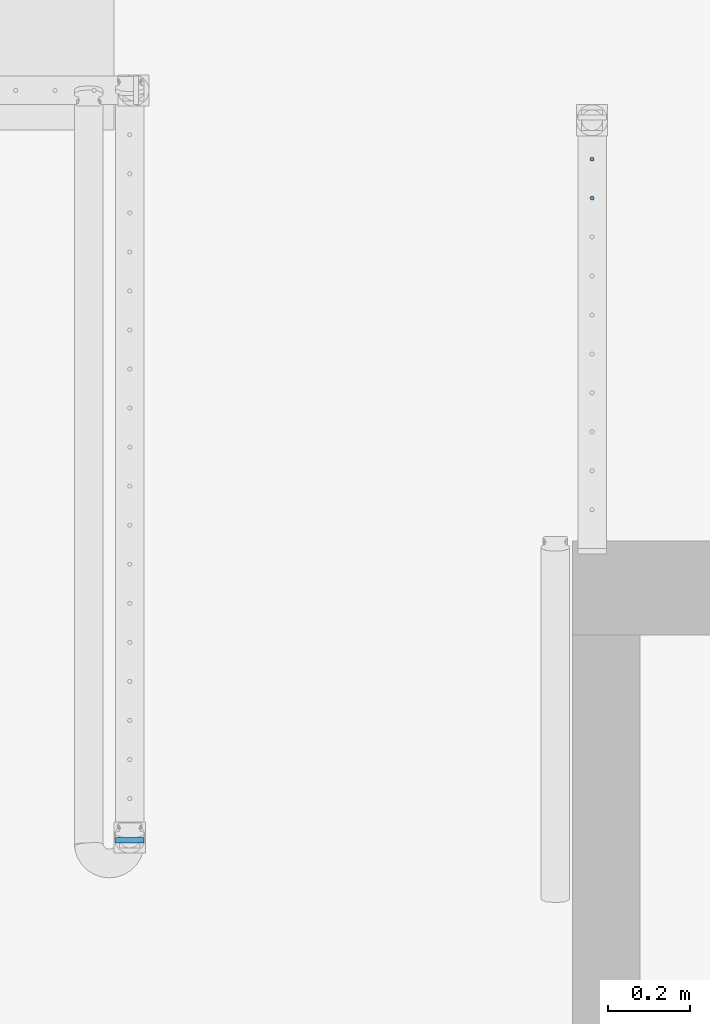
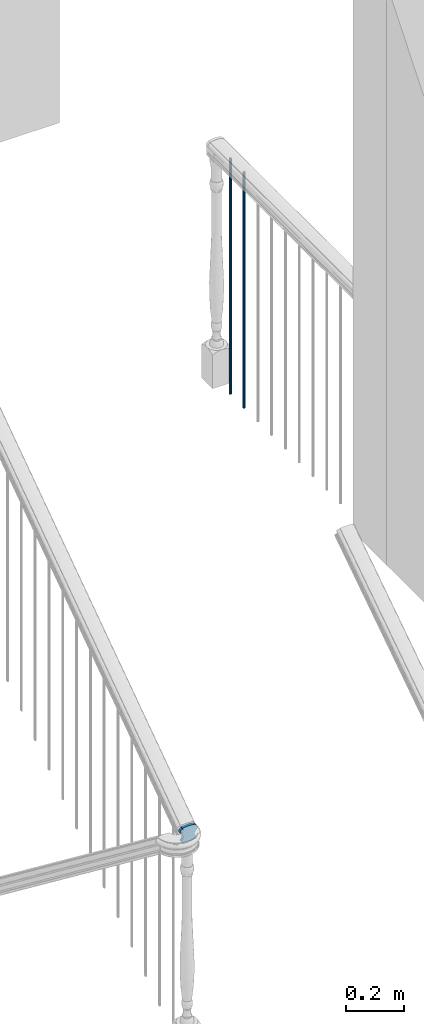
# One storey, part 26 of 77: 3 building element parts, 2 elements without a shape of their own.
"""IFC2X3 building model written with IfcOpenShell, lengths in inches."""

from ifc_helpers import new_model, entity, si_unit, converted_unit, derived_unit, money_unit, direction, frame, origin_with_axes, place, context, subcontext, project, spatial, faceted_brep, material, type_object, element, aggregate, save


model = new_model("IFC2X3")

# Units and contexts
model_context = context("Model", 3, precision=0.000393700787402, world=origin_with_axes(), true_north=direction((0.0, 1.0)))
body_context = subcontext(model_context, "Body", "Model", "MODEL_VIEW")
ifc_project = project(units=[converted_unit("LENGTHUNIT", "INCH", entity("IfcPositiveLengthMeasure", 0.0254), si_unit("LENGTHUNIT", "METRE"), dimensions=[1, 0, 0, 0, 0, 0, 0]), converted_unit("AREAUNIT", "SQUARE_FOOT", entity("IfcPositiveLengthMeasure", 0.09290304), si_unit("AREAUNIT", "SQUARE_METRE"), dimensions=[2, 0, 0, 0, 0, 0, 0]), si_unit("PLANEANGLEUNIT", "RADIAN"), si_unit("SOLIDANGLEUNIT", "STERADIAN"), money_unit("USD"), converted_unit("TIMEUNIT", "Year", entity("IfcTimeMeasure", 31556926.0), si_unit("TIMEUNIT", "SECOND"), dimensions=[0, 0, 1, 0, 0, 0, 0]), si_unit("MASSUNIT", "GRAM", prefix="KILO"), si_unit("THERMODYNAMICTEMPERATUREUNIT", "DEGREE_CELSIUS"), si_unit("LUMINOUSINTENSITYUNIT", "LUMEN"), si_unit("ENERGYUNIT", "JOULE", prefix="MEGA"), derived_unit("THERMALCONDUCTANCEUNIT", [(si_unit("POWERUNIT", "WATT"), 1), (si_unit("LENGTHUNIT", "METRE"), -1), (si_unit("THERMODYNAMICTEMPERATUREUNIT", "KELVIN"), -1)]), derived_unit("SPECIFICHEATCAPACITYUNIT", [(si_unit("ENERGYUNIT", "JOULE"), 1), (si_unit("MASSUNIT", "GRAM", prefix="KILO"), -1), (si_unit("THERMODYNAMICTEMPERATUREUNIT", "KELVIN"), -1)]), derived_unit("MASSDENSITYUNIT", [(si_unit("MASSUNIT", "GRAM", prefix="KILO"), 1), (si_unit("VOLUMEUNIT", "CUBIC_METRE"), -1)])], contexts=[model_context])

# Site, building, storey
site_placement = place(None, origin_with_axes())
site = spatial("IfcSite", under=ifc_project, at=site_placement, Name="Site", CompositionType="ELEMENT")
building_placement = place(site_placement, origin_with_axes())
building = spatial("IfcBuilding", under=site, at=building_placement, Name="Building", CompositionType="ELEMENT")
storey_placement = place(building_placement, frame((0.0, 0.0, 127.952755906), z_axis=(0.0, 0.0, 1.0), x_axis=(1.0, 0.0, 0.0)))
storey = spatial("IfcBuildingStorey", under=building, at=storey_placement, Name="Second Floor", CompositionType="ELEMENT", Elevation=127.953)

# Railing, building element parts
railing_type = type_object("IfcRailingType", Name="Railing Type", PredefinedType="NOTDEFINED")
railing_1_placement = place(storey_placement, frame((726.989643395, 142.006727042, 0.0), z_axis=(0.0, 0.0, 1.0), x_axis=(-1.0, 0.0, 0.0)))
railing_1 = element("IfcRailing", 1, at=railing_1_placement, inside=storey, type_object=railing_type, Name="RAILING - 001", PredefinedType="NOTDEFINED")
ifc_material_1 = material(Name="Steel - Structural")
building_element_part_1_placement = place(railing_1_placement, origin_with_axes())
building_element_part_1 = element("IfcBuildingElementPart", 2, at=building_element_part_1_placement, material=ifc_material_1, Name="Steel - Structural", context=body_context, shape_type="Brep", body=[
    faceted_brep([(-1.96850393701, 3.55450185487, -4.94161422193e-07), (-1.93432122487, 3.55749245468, -4.94161422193e-07), (-1.93432122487, 3.55749245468, 39.2125984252), (-1.96850393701, 3.55450185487, 39.2125984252), (-2.00268664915, 3.55749245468, -4.94161422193e-07), (-2.03583073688, 3.56637338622, -4.94161422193e-07), (-2.06692913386, 3.58087480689, -4.94161422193e-07), (-2.09503693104, 3.60055609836, -4.94161422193e-07), (-2.11930008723, 3.62481925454, -4.94161422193e-07), (-2.1389813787, 3.65292705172, -4.94161422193e-07), (-2.15348279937, 3.68402544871, -4.94161422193e-07), (-2.16236373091, 3.71716953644, -4.94161422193e-07), (-2.16535433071, 3.75135224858, -4.94161422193e-07), (-2.16236373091, 3.78553496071, -4.94161422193e-07), (-2.15348279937, 3.81867904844, -4.94161422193e-07), (-2.1389813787, 3.84977744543, -4.94161422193e-07), (-2.11930008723, 3.87788524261, -4.94161422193e-07), (-2.09503693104, 3.9021483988, -4.94161422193e-07), (-2.06692913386, 3.92182969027, -4.94161422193e-07), (-2.03583073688, 3.93633111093, -4.94161422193e-07), (-2.00268664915, 3.94521204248, -4.94161422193e-07), (-1.96850393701, 3.94820264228, -4.94161422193e-07), (-1.93432122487, 3.94521204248, -4.94161422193e-07), (-1.90117713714, 3.93633111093, -4.94161422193e-07), (-1.87007874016, 3.92182969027, -4.94161422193e-07), (-1.84197094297, 3.9021483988, -4.94161422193e-07), (-1.81770778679, 3.87788524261, -4.94161422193e-07), (-1.79802649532, 3.84977744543, -4.94161422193e-07), (-1.78352507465, 3.81867904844, -4.94161422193e-07), (-1.77464414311, 3.78553496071, -4.94161422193e-07), (-1.77165354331, 3.75135224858, -4.94161422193e-07), (-1.77464414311, 3.71716953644, -4.94161422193e-07), (-1.78352507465, 3.68402544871, -4.94161422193e-07), (-1.79802649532, 3.65292705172, -4.94161422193e-07), (-1.81770778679, 3.62481925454, -4.94161422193e-07), (-1.84197094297, 3.60055609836, -4.94161422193e-07), (-1.87007874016, 3.58087480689, -4.94161422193e-07), (-1.90117713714, 3.56637338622, -4.94161422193e-07), (-1.90117713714, 3.56637338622, 39.2125984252), (-1.87007874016, 3.58087480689, 39.2125984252), (-1.84197094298, 3.60055609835, 39.2125984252), (-1.81770778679, 3.62481925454, 39.2125984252), (-1.79802649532, 3.65292705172, 39.2125984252), (-1.78352507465, 3.68402544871, 39.2125984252), (-1.77464414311, 3.71716953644, 39.2125984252), (-1.77165354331, 3.75135224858, 39.2125984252), (-1.77464414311, 3.78553496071, 39.2125984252), (-1.78352507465, 3.81867904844, 39.2125984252), (-1.79802649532, 3.84977744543, 39.2125984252), (-1.81770778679, 3.87788524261, 39.2125984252), (-1.84197094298, 3.9021483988, 39.2125984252), (-1.87007874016, 3.92182969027, 39.2125984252), (-1.90117713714, 3.93633111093, 39.2125984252), (-1.93432122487, 3.94521204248, 39.2125984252), (-1.96850393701, 3.94820264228, 39.2125984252), (-2.00268664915, 3.94521204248, 39.2125984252), (-2.03583073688, 3.93633111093, 39.2125984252), (-2.06692913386, 3.92182969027, 39.2125984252), (-2.09503693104, 3.9021483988, 39.2125984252), (-2.11930008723, 3.87788524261, 39.2125984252), (-2.1389813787, 3.84977744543, 39.2125984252), (-2.15348279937, 3.81867904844, 39.2125984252), (-2.16236373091, 3.78553496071, 39.2125984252), (-2.16535433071, 3.75135224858, 39.2125984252), (-2.16236373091, 3.71716953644, 39.2125984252), (-2.15348279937, 3.68402544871, 39.2125984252), (-2.1389813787, 3.65292705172, 39.2125984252), (-2.11930008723, 3.62481925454, 39.2125984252), (-2.09503693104, 3.60055609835, 39.2125984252), (-2.06692913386, 3.58087480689, 39.2125984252), (-2.03583073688, 3.56637338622, 39.2125984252), (-2.00268664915, 3.55749245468, 39.2125984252)], [[[0, 1, 2, 3]], [[0, 4, 5, 6, 7, 8, 9, 10, 11, 12, 13, 14, 15, 16, 17, 18, 19, 20, 21, 22, 23, 24, 25, 26, 27, 28, 29, 30, 31, 32, 33, 34, 35, 36, 37, 1]], [[1, 37, 38, 2]], [[3, 2, 38, 39, 40, 41, 42, 43, 44, 45, 46, 47, 48, 49, 50, 51, 52, 53, 54, 55, 56, 57, 58, 59, 60, 61, 62, 63, 64, 65, 66, 67, 68, 69, 70, 71]], [[4, 0, 3, 71]], [[5, 4, 71, 70]], [[6, 5, 70, 69]], [[7, 6, 69, 68]], [[8, 7, 68, 67]], [[9, 8, 67, 66]], [[10, 9, 66, 65]], [[11, 10, 65, 64]], [[12, 11, 64, 63]], [[13, 12, 63, 62]], [[14, 13, 62, 61]], [[15, 14, 61, 60]], [[16, 15, 60, 59]], [[17, 16, 59, 58]], [[18, 17, 58, 57]], [[19, 18, 57, 56]], [[20, 19, 56, 55]], [[21, 20, 55, 54]], [[22, 21, 54, 53]], [[23, 22, 53, 52]], [[24, 23, 52, 51]], [[25, 24, 51, 50]], [[26, 25, 50, 49]], [[27, 26, 49, 48]], [[28, 27, 48, 47]], [[29, 28, 47, 46]], [[30, 29, 46, 45]], [[31, 30, 45, 44]], [[32, 31, 44, 43]], [[33, 32, 43, 42]], [[34, 33, 42, 41]], [[35, 34, 41, 40]], [[36, 35, 40, 39]], [[37, 36, 39, 38]]]),
])
building_element_part_2_placement = place(railing_1_placement, origin_with_axes())
building_element_part_2 = element("IfcBuildingElementPart", 3, at=building_element_part_2_placement, material=ifc_material_1, Name="Steel - Structural", context=body_context, shape_type="Brep", body=[
    faceted_brep([(-1.96850393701, 7.30585410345, -4.94161422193e-07), (-1.93432122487, 7.30884470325, -4.94161422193e-07), (-1.93432122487, 7.30884470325, 39.2125984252), (-1.96850393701, 7.30585410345, 39.2125984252), (-2.00268664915, 7.30884470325, -4.94161422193e-07), (-2.03583073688, 7.31772563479, -4.94161422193e-07), (-2.06692913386, 7.33222705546, -4.94161422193e-07), (-2.09503693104, 7.35190834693, -4.94161422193e-07), (-2.11930008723, 7.37617150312, -4.94161422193e-07), (-2.1389813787, 7.4042793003, -4.94161422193e-07), (-2.15348279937, 7.43537769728, -4.94161422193e-07), (-2.16236373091, 7.46852178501, -4.94161422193e-07), (-2.16535433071, 7.50270449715, -4.94161422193e-07), (-2.16236373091, 7.53688720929, -4.94161422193e-07), (-2.15348279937, 7.57003129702, -4.94161422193e-07), (-2.1389813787, 7.601129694, -4.94161422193e-07), (-2.11930008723, 7.62923749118, -4.94161422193e-07), (-2.09503693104, 7.65350064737, -4.94161422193e-07), (-2.06692913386, 7.67318193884, -4.94161422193e-07), (-2.03583073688, 7.68768335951, -4.94161422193e-07), (-2.00268664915, 7.69656429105, -4.94161422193e-07), (-1.96850393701, 7.69955489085, -4.94161422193e-07), (-1.93432122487, 7.69656429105, -4.94161422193e-07), (-1.90117713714, 7.68768335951, -4.94161422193e-07), (-1.87007874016, 7.67318193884, -4.94161422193e-07), (-1.84197094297, 7.65350064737, -4.94161422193e-07), (-1.81770778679, 7.62923749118, -4.94161422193e-07), (-1.79802649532, 7.601129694, -4.94161422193e-07), (-1.78352507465, 7.57003129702, -4.94161422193e-07), (-1.77464414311, 7.53688720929, -4.94161422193e-07), (-1.77165354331, 7.50270449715, -4.94161422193e-07), (-1.77464414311, 7.46852178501, -4.94161422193e-07), (-1.78352507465, 7.43537769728, -4.94161422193e-07), (-1.79802649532, 7.4042793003, -4.94161422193e-07), (-1.81770778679, 7.37617150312, -4.94161422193e-07), (-1.84197094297, 7.35190834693, -4.94161422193e-07), (-1.87007874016, 7.33222705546, -4.94161422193e-07), (-1.90117713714, 7.31772563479, -4.94161422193e-07), (-1.90117713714, 7.31772563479, 39.2125984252), (-1.87007874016, 7.33222705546, 39.2125984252), (-1.84197094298, 7.35190834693, 39.2125984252), (-1.81770778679, 7.37617150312, 39.2125984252), (-1.79802649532, 7.4042793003, 39.2125984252), (-1.78352507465, 7.43537769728, 39.2125984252), (-1.77464414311, 7.46852178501, 39.2125984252), (-1.77165354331, 7.50270449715, 39.2125984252), (-1.77464414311, 7.53688720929, 39.2125984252), (-1.78352507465, 7.57003129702, 39.2125984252), (-1.79802649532, 7.601129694, 39.2125984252), (-1.81770778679, 7.62923749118, 39.2125984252), (-1.84197094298, 7.65350064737, 39.2125984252), (-1.87007874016, 7.67318193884, 39.2125984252), (-1.90117713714, 7.68768335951, 39.2125984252), (-1.93432122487, 7.69656429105, 39.2125984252), (-1.96850393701, 7.69955489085, 39.2125984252), (-2.00268664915, 7.69656429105, 39.2125984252), (-2.03583073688, 7.68768335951, 39.2125984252), (-2.06692913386, 7.67318193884, 39.2125984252), (-2.09503693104, 7.65350064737, 39.2125984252), (-2.11930008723, 7.62923749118, 39.2125984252), (-2.1389813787, 7.601129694, 39.2125984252), (-2.15348279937, 7.57003129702, 39.2125984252), (-2.16236373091, 7.53688720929, 39.2125984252), (-2.16535433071, 7.50270449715, 39.2125984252), (-2.16236373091, 7.46852178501, 39.2125984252), (-2.15348279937, 7.43537769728, 39.2125984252), (-2.1389813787, 7.4042793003, 39.2125984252), (-2.11930008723, 7.37617150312, 39.2125984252), (-2.09503693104, 7.35190834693, 39.2125984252), (-2.06692913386, 7.33222705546, 39.2125984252), (-2.03583073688, 7.31772563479, 39.2125984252), (-2.00268664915, 7.30884470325, 39.2125984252)], [[[0, 1, 2, 3]], [[0, 4, 5, 6, 7, 8, 9, 10, 11, 12, 13, 14, 15, 16, 17, 18, 19, 20, 21, 22, 23, 24, 25, 26, 27, 28, 29, 30, 31, 32, 33, 34, 35, 36, 37, 1]], [[1, 37, 38, 2]], [[3, 2, 38, 39, 40, 41, 42, 43, 44, 45, 46, 47, 48, 49, 50, 51, 52, 53, 54, 55, 56, 57, 58, 59, 60, 61, 62, 63, 64, 65, 66, 67, 68, 69, 70, 71]], [[4, 0, 3, 71]], [[5, 4, 71, 70]], [[6, 5, 70, 69]], [[7, 6, 69, 68]], [[8, 7, 68, 67]], [[9, 8, 67, 66]], [[10, 9, 66, 65]], [[11, 10, 65, 64]], [[12, 11, 64, 63]], [[13, 12, 63, 62]], [[14, 13, 62, 61]], [[15, 14, 61, 60]], [[16, 15, 60, 59]], [[17, 16, 59, 58]], [[18, 17, 58, 57]], [[19, 18, 57, 56]], [[20, 19, 56, 55]], [[21, 20, 55, 54]], [[22, 21, 54, 53]], [[23, 22, 53, 52]], [[24, 23, 52, 51]], [[25, 24, 51, 50]], [[26, 25, 50, 49]], [[27, 26, 49, 48]], [[28, 27, 48, 47]], [[29, 28, 47, 46]], [[30, 29, 46, 45]], [[31, 30, 45, 44]], [[32, 31, 44, 43]], [[33, 32, 43, 42]], [[34, 33, 42, 41]], [[35, 34, 41, 40]], [[36, 35, 40, 39]], [[37, 36, 39, 38]]]),
])
aggregate(railing_1, [building_element_part_1, building_element_part_2])

# Railing, building element part
railing_2_placement = place(storey_placement, frame((680.741415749, 72.1889513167, -111.626157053), z_axis=(0.0, 0.0, 1.0), x_axis=(1.0, 0.0, 0.0)))
railing_2 = element("IfcRailing", 4, at=railing_2_placement, inside=storey, type_object=railing_type, Name="RAILING - 001", PredefinedType="NOTDEFINED")
ifc_material_2 = material(Name="Wood - Structural")
building_element_part_3_placement = place(railing_2_placement, origin_with_axes())
building_element_part_3 = element("IfcBuildingElementPart", 5, at=building_element_part_3_placement, material=ifc_material_2, Name="Wood - Structural", context=body_context, shape_type="Brep", body=[
    faceted_brep([(4.69466494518, 0.212598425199, 95.2682124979), (4.69466494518, 0.212598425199, 95.1455621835), (4.69466494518, 0.712598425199, 95.1455621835), (4.69466494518, 0.712598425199, 95.2682124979), (4.63611672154, 0.212598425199, 95.2824589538), (4.26630886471, 0.212598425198, 95.3517381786), (3.89222506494, 0.212598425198, 95.3865101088), (3.51671232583, 0.212598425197, 95.3865101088), (3.14262852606, 0.212598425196, 95.3517381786), (2.77282066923, 0.212598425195, 95.2824589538), (2.71427244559, 0.212598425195, 95.2682124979), (2.71427244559, 0.212598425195, 95.1455621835), (2.68073458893, 0.212598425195, 95.1440064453), (2.61467790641, 0.212598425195, 95.1316314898), (2.55164735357, 0.212598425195, 95.1072575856), (2.49355808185, 0.212598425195, 95.0716253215), (2.4421751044, 0.212598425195, 95.0258173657), (2.39905966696, 0.212598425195, 94.9712255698), (2.3655218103, 0.212598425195, 94.9095086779), (2.34258056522, 0.212598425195, 94.8425419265), (2.33093298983, 0.212598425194, 94.7723600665), (2.33093298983, 0.212598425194, 94.7010955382), (2.34258056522, 0.212598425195, 94.6309136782), (2.3655218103, 0.212598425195, 94.5639469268), (2.39905966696, 0.212598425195, 94.5022300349), (2.4421751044, 0.212598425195, 94.447638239), (2.49355808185, 0.212598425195, 94.4018302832), (2.55164735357, 0.212598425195, 94.366198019), (2.61467790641, 0.212598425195, 94.3418241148), (2.68073458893, 0.212598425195, 94.3294491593), (2.71427244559, 0.212598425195, 94.3278934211), (2.71427244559, 0.212598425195, 94.1234762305), (2.73684931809, 0.212598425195, 94.0920304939), (2.77664249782, 0.212598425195, 94.018802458), (2.80386263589, 0.212598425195, 93.9393453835), (2.81768266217, 0.212598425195, 93.8560735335), (2.81768266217, 0.212598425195, 93.7715170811), (2.80386263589, 0.212598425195, 93.6882452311), (2.77664249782, 0.212598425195, 93.6087881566), (2.73684931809, 0.212598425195, 93.5355601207), (2.71427244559, 0.212598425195, 93.5041143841), (2.71427244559, 0.212598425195, 93.2996971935), (2.69750351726, 0.212598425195, 93.2989193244), (2.664475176, 0.212598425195, 93.2927318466), (2.63295989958, 0.212598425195, 93.2805448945), (2.60391526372, 0.212598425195, 93.2627287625), (2.57822377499, 0.212598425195, 93.2398247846), (2.55666605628, 0.212598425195, 93.2125288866), (2.53989712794, 0.212598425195, 93.1816704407), (2.5284265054, 0.212598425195, 93.148187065), (2.52260271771, 0.212598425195, 93.113096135), (2.52260271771, 0.212598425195, 93.0774638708), (2.5284265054, 0.212598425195, 93.0423729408), (2.53989712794, 0.212598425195, 93.0088895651), (2.55666605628, 0.212598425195, 92.9780311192), (2.57822377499, 0.212598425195, 92.9507352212), (2.60391526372, 0.212598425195, 92.9278312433), (2.63295989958, 0.212598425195, 92.9100151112), (2.664475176, 0.212598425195, 92.8978281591), (2.69750351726, 0.212598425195, 92.8916406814), (2.71427244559, 0.212598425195, 92.8908628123), (4.69466494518, 0.212598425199, 92.8908628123), (4.71143387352, 0.212598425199, 92.8916406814), (4.74446221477, 0.212598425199, 92.8978281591), (4.7759774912, 0.2125984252, 92.9100151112), (4.80502212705, 0.2125984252, 92.9278312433), (4.83071361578, 0.2125984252, 92.9507352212), (4.8522713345, 0.2125984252, 92.9780311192), (4.86904026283, 0.2125984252, 93.0088895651), (4.88051088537, 0.2125984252, 93.0423729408), (4.88633467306, 0.2125984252, 93.0774638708), (4.88633467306, 0.2125984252, 93.113096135), (4.88051088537, 0.2125984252, 93.148187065), (4.86904026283, 0.2125984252, 93.1816704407), (4.8522713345, 0.2125984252, 93.2125288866), (4.83071361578, 0.2125984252, 93.2398247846), (4.80502212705, 0.2125984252, 93.2627287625), (4.7759774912, 0.2125984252, 93.2805448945), (4.74446221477, 0.212598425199, 93.2927318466), (4.71143387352, 0.212598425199, 93.2989193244), (4.69466494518, 0.212598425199, 93.2996971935), (4.69466494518, 0.212598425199, 93.5041143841), (4.67208807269, 0.212598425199, 93.5355601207), (4.63229489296, 0.212598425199, 93.6087881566), (4.60507475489, 0.212598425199, 93.6882452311), (4.5912547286, 0.212598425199, 93.7715170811), (4.5912547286, 0.212598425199, 93.8560735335), (4.60507475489, 0.212598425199, 93.9393453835), (4.63229489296, 0.212598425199, 94.018802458), (4.67208807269, 0.212598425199, 94.0920304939), (4.69466494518, 0.212598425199, 94.1234762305), (4.69466494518, 0.212598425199, 94.3278934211), (4.72820280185, 0.212598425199, 94.3294491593), (4.79425948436, 0.2125984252, 94.3418241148), (4.85729003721, 0.2125984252, 94.366198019), (4.91537930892, 0.2125984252, 94.4018302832), (4.96676228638, 0.2125984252, 94.447638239), (5.00987772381, 0.2125984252, 94.5022300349), (5.04341558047, 0.2125984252, 94.5639469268), (5.06635682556, 0.2125984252, 94.6309136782), (5.07800440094, 0.2125984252, 94.7010955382), (5.07800440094, 0.2125984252, 94.7723600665), (5.06635682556, 0.2125984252, 94.8425419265), (5.04341558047, 0.2125984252, 94.9095086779), (5.00987772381, 0.2125984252, 94.9712255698), (4.96676228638, 0.2125984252, 95.0258173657), (4.91537930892, 0.2125984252, 95.0716253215), (4.85729003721, 0.2125984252, 95.1072575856), (4.79425948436, 0.2125984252, 95.1316314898), (4.72820280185, 0.212598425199, 95.1440064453), (4.72820280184, 0.712598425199, 95.1440064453), (4.79425948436, 0.7125984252, 95.1316314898), (4.85729003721, 0.7125984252, 95.1072575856), (4.91537930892, 0.7125984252, 95.0716253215), (4.96676228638, 0.7125984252, 95.0258173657), (5.00987772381, 0.7125984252, 94.9712255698), (5.04341558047, 0.7125984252, 94.9095086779), (5.06635682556, 0.7125984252, 94.8425419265), (5.07800440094, 0.7125984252, 94.7723600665), (5.07800440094, 0.7125984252, 94.7010955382), (5.06635682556, 0.7125984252, 94.6309136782), (5.04341558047, 0.7125984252, 94.5639469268), (5.00987772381, 0.7125984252, 94.5022300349), (4.96676228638, 0.7125984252, 94.447638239), (4.91537930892, 0.7125984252, 94.4018302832), (4.85729003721, 0.7125984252, 94.366198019), (4.79425948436, 0.7125984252, 94.3418241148), (4.72820280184, 0.712598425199, 94.3294491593), (4.69466494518, 0.712598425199, 94.3278934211), (4.69466494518, 0.712598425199, 94.1234762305), (4.67208807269, 0.712598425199, 94.0920304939), (4.63229489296, 0.712598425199, 94.018802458), (4.60507475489, 0.712598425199, 93.9393453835), (4.5912547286, 0.712598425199, 93.8560735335), (4.5912547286, 0.712598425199, 93.7715170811), (4.60507475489, 0.712598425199, 93.6882452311), (4.63229489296, 0.712598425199, 93.6087881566), (4.67208807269, 0.712598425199, 93.5355601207), (4.69466494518, 0.712598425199, 93.5041143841), (4.69466494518, 0.712598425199, 93.2996971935), (4.71143387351, 0.712598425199, 93.2989193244), (4.74446221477, 0.712598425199, 93.2927318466), (4.77597749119, 0.7125984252, 93.2805448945), (4.80502212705, 0.7125984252, 93.2627287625), (4.83071361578, 0.7125984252, 93.2398247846), (4.8522713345, 0.7125984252, 93.2125288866), (4.86904026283, 0.7125984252, 93.1816704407), (4.88051088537, 0.7125984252, 93.148187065), (4.88633467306, 0.7125984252, 93.113096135), (4.88633467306, 0.7125984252, 93.0774638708), (4.88051088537, 0.7125984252, 93.0423729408), (4.86904026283, 0.7125984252, 93.0088895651), (4.8522713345, 0.7125984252, 92.9780311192), (4.83071361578, 0.7125984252, 92.9507352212), (4.80502212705, 0.7125984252, 92.9278312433), (4.77597749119, 0.7125984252, 92.9100151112), (4.74446221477, 0.712598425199, 92.8978281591), (4.71143387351, 0.712598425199, 92.8916406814), (4.69466494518, 0.712598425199, 92.8908628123), (2.71427244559, 0.712598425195, 92.8908628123), (2.69750351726, 0.712598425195, 92.8916406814), (2.664475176, 0.712598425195, 92.8978281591), (2.63295989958, 0.712598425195, 92.9100151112), (2.60391526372, 0.712598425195, 92.9278312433), (2.57822377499, 0.712598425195, 92.9507352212), (2.55666605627, 0.712598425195, 92.9780311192), (2.53989712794, 0.712598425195, 93.0088895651), (2.5284265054, 0.712598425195, 93.0423729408), (2.52260271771, 0.712598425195, 93.0774638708), (2.52260271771, 0.712598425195, 93.113096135), (2.5284265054, 0.712598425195, 93.148187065), (2.53989712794, 0.712598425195, 93.1816704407), (2.55666605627, 0.712598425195, 93.2125288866), (2.57822377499, 0.712598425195, 93.2398247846), (2.60391526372, 0.712598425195, 93.2627287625), (2.63295989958, 0.712598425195, 93.2805448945), (2.664475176, 0.712598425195, 93.2927318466), (2.69750351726, 0.712598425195, 93.2989193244), (2.71427244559, 0.712598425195, 93.2996971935), (2.71427244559, 0.712598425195, 93.5041143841), (2.73684931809, 0.712598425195, 93.5355601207), (2.77664249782, 0.712598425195, 93.6087881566), (2.80386263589, 0.712598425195, 93.6882452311), (2.81768266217, 0.712598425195, 93.7715170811), (2.81768266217, 0.712598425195, 93.8560735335), (2.80386263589, 0.712598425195, 93.9393453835), (2.77664249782, 0.712598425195, 94.018802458), (2.73684931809, 0.712598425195, 94.0920304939), (2.71427244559, 0.712598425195, 94.1234762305), (2.71427244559, 0.712598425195, 94.3278934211), (2.68073458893, 0.712598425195, 94.3294491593), (2.61467790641, 0.712598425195, 94.3418241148), (2.55164735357, 0.712598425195, 94.366198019), (2.49355808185, 0.712598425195, 94.4018302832), (2.44217510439, 0.712598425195, 94.447638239), (2.39905966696, 0.712598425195, 94.5022300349), (2.3655218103, 0.712598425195, 94.5639469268), (2.34258056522, 0.712598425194, 94.6309136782), (2.33093298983, 0.712598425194, 94.7010955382), (2.33093298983, 0.712598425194, 94.7723600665), (2.34258056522, 0.712598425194, 94.8425419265), (2.3655218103, 0.712598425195, 94.9095086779), (2.39905966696, 0.712598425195, 94.9712255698), (2.44217510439, 0.712598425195, 95.0258173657), (2.49355808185, 0.712598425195, 95.0716253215), (2.55164735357, 0.712598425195, 95.1072575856), (2.61467790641, 0.712598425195, 95.1316314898), (2.68073458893, 0.712598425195, 95.1440064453), (2.71427244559, 0.712598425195, 95.1455621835), (2.71427244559, 0.712598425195, 95.2682124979), (2.77282066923, 0.712598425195, 95.2824589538), (3.14262852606, 0.712598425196, 95.3517381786), (3.51671232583, 0.712598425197, 95.3865101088), (3.89222506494, 0.712598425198, 95.3865101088), (4.26630886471, 0.712598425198, 95.3517381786), (4.63611672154, 0.712598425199, 95.2824589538)], [[[0, 1, 2, 3]], [[0, 4, 5, 6, 7, 8, 9, 10, 11, 12, 13, 14, 15, 16, 17, 18, 19, 20, 21, 22, 23, 24, 25, 26, 27, 28, 29, 30, 31, 32, 33, 34, 35, 36, 37, 38, 39, 40, 41, 42, 43, 44, 45, 46, 47, 48, 49, 50, 51, 52, 53, 54, 55, 56, 57, 58, 59, 60, 61, 62, 63, 64, 65, 66, 67, 68, 69, 70, 71, 72, 73, 74, 75, 76, 77, 78, 79, 80, 81, 82, 83, 84, 85, 86, 87, 88, 89, 90, 91, 92, 93, 94, 95, 96, 97, 98, 99, 100, 101, 102, 103, 104, 105, 106, 107, 108, 109, 1]], [[1, 109, 110, 2]], [[3, 2, 110, 111, 112, 113, 114, 115, 116, 117, 118, 119, 120, 121, 122, 123, 124, 125, 126, 127, 128, 129, 130, 131, 132, 133, 134, 135, 136, 137, 138, 139, 140, 141, 142, 143, 144, 145, 146, 147, 148, 149, 150, 151, 152, 153, 154, 155, 156, 157, 158, 159, 160, 161, 162, 163, 164, 165, 166, 167, 168, 169, 170, 171, 172, 173, 174, 175, 176, 177, 178, 179, 180, 181, 182, 183, 184, 185, 186, 187, 188, 189, 190, 191, 192, 193, 194, 195, 196, 197, 198, 199, 200, 201, 202, 203, 204, 205, 206, 207, 208, 209, 210, 211, 212, 213, 214, 215]], [[4, 0, 3, 215]], [[5, 4, 215, 214]], [[6, 5, 214, 213]], [[7, 6, 213, 212]], [[8, 7, 212, 211]], [[9, 8, 211, 210]], [[10, 9, 210, 209]], [[11, 10, 209, 208]], [[12, 11, 208, 207]], [[13, 12, 207, 206]], [[14, 13, 206, 205]], [[15, 14, 205, 204]], [[16, 15, 204, 203]], [[17, 16, 203, 202]], [[18, 17, 202, 201]], [[19, 18, 201, 200]], [[20, 19, 200, 199]], [[21, 20, 199, 198]], [[22, 21, 198, 197]], [[23, 22, 197, 196]], [[24, 23, 196, 195]], [[25, 24, 195, 194]], [[26, 25, 194, 193]], [[27, 26, 193, 192]], [[28, 27, 192, 191]], [[29, 28, 191, 190]], [[30, 29, 190, 189]], [[31, 30, 189, 188]], [[32, 31, 188, 187]], [[33, 32, 187, 186]], [[34, 33, 186, 185]], [[35, 34, 185, 184]], [[36, 35, 184, 183]], [[37, 36, 183, 182]], [[38, 37, 182, 181]], [[39, 38, 181, 180]], [[40, 39, 180, 179]], [[41, 40, 179, 178]], [[42, 41, 178, 177]], [[43, 42, 177, 176]], [[44, 43, 176, 175]], [[45, 44, 175, 174]], [[46, 45, 174, 173]], [[47, 46, 173, 172]], [[48, 47, 172, 171]], [[49, 48, 171, 170]], [[50, 49, 170, 169]], [[51, 50, 169, 168]], [[52, 51, 168, 167]], [[53, 52, 167, 166]], [[54, 53, 166, 165]], [[55, 54, 165, 164]], [[56, 55, 164, 163]], [[57, 56, 163, 162]], [[58, 57, 162, 161]], [[59, 58, 161, 160]], [[60, 59, 160, 159]], [[61, 60, 159, 158]], [[62, 61, 158, 157]], [[63, 62, 157, 156]], [[64, 63, 156, 155]], [[65, 64, 155, 154]], [[66, 65, 154, 153]], [[67, 66, 153, 152]], [[68, 67, 152, 151]], [[69, 68, 151, 150]], [[70, 69, 150, 149]], [[71, 70, 149, 148]], [[72, 71, 148, 147]], [[73, 72, 147, 146]], [[74, 73, 146, 145]], [[75, 74, 145, 144]], [[76, 75, 144, 143]], [[77, 76, 143, 142]], [[78, 77, 142, 141]], [[79, 78, 141, 140]], [[80, 79, 140, 139]], [[81, 80, 139, 138]], [[82, 81, 138, 137]], [[83, 82, 137, 136]], [[84, 83, 136, 135]], [[85, 84, 135, 134]], [[86, 85, 134, 133]], [[87, 86, 133, 132]], [[88, 87, 132, 131]], [[89, 88, 131, 130]], [[90, 89, 130, 129]], [[91, 90, 129, 128]], [[92, 91, 128, 127]], [[93, 92, 127, 126]], [[94, 93, 126, 125]], [[95, 94, 125, 124]], [[96, 95, 124, 123]], [[97, 96, 123, 122]], [[98, 97, 122, 121]], [[99, 98, 121, 120]], [[100, 99, 120, 119]], [[101, 100, 119, 118]], [[102, 101, 118, 117]], [[103, 102, 117, 116]], [[104, 103, 116, 115]], [[105, 104, 115, 114]], [[106, 105, 114, 113]], [[107, 106, 113, 112]], [[108, 107, 112, 111]], [[109, 108, 111, 110]]]),
])
aggregate(railing_2, [building_element_part_3])

save(model, "model.ifc")
